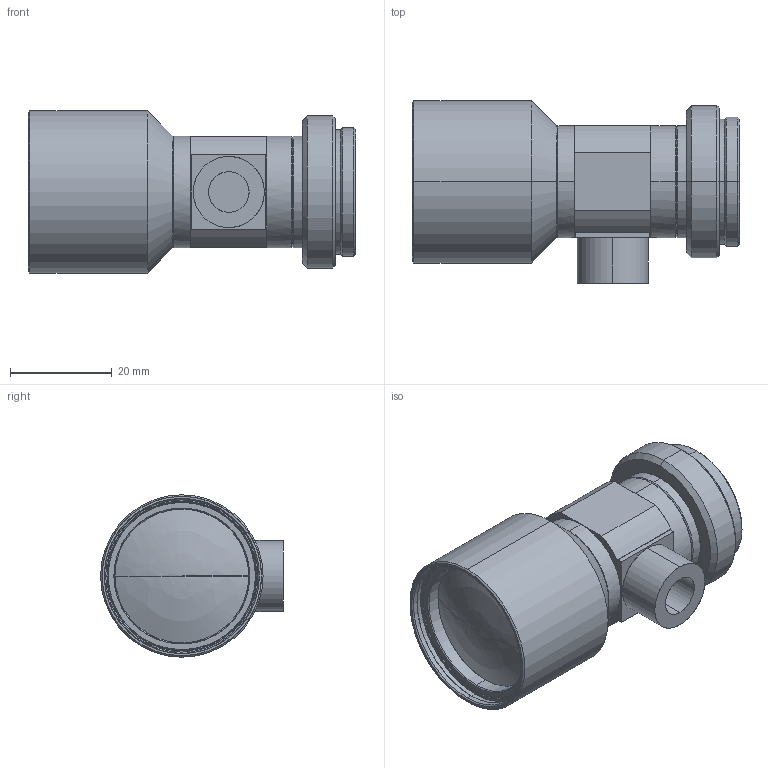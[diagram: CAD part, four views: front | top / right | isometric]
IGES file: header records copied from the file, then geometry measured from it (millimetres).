
Start section: SolidWorks IGES file using analytic representation for surfaces
Global section: file name: \\192.168.200.11\Development\02 テレセントリックレンズ\02 VS-TCH Series\60-65mm\005 VS-TCH05-65&CO\3D\VS-TCH15-65CO\VS-TCH15-65CO.IGS; native system: SolidWorks 2014; preprocessor: SolidWorks 2014; author: gijutu-1; date: 140421.093454; units: millimetre
Bounding box: 64.5 x 36 x 32 mm (x, y, z)
Surface area: 9331.6 mm2 (no closed solid volume)
Topology: 0 solids, 0 shells, 123 faces, 1554 edges, 1552 vertices
Faces by surface type: revolution 92, bspline 31
